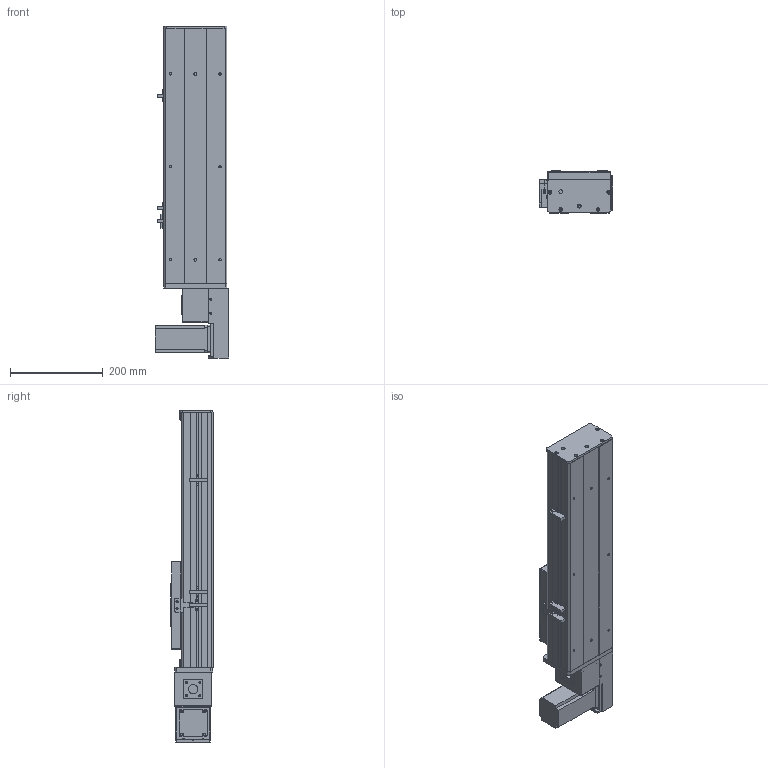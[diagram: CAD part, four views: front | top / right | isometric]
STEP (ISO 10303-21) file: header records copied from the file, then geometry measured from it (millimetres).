
FILE_DESCRIPTION (( 'STEP AP203' ), '1' );
FILE_NAME ('Y135CB-D90-S250-BL-P400W.STEP', '2020-02-17T07:55:47', ( '微软用户' ), ( '微软中国' ), 'SwSTEP 2.0', 'SolidWorks 2017', '' );
FILE_SCHEMA (( 'CONFIG_CONTROL_DESIGN' ));
Length unit declared in the file: millimetre
Products named in the file (18): 35CB---喘謫眊楊擘啣; C-詩湍揤踡え-陔; Y10B--々湍喘謫眊--666; 135CB--詩湍-CE; Y10B-耜蚾蟀諉啣----; Y100-135俋离換覜ん--; Y俋欶BR----; Y135C-陔俋离換覜結え-; 0B-埴倛裔啣; 5C--俋欶; 0B-源倛裔啣; C-雄赽釱--; 0B-萇儂楊擘啣; Y135CB-耜裔; Y135CB-D90-S250-BL-P400W; san松下电机400不带刹车----; 135CB---遴掛极.-; 5CB --掛极耜裔啣-
Assembly tree (21 placements, depth 2):
  Y135CB-D90-S250-BL-P400W
    Y135CB-耜裔
    135CB---遴掛极.-
    35CB---喘謫眊楊擘啣
    Y10B--々湍喘謫眊--666
    Y10B-耜蚾蟀諉啣----
    Y俋欶BR----
    0B-埴倛裔啣
    0B-源倛裔啣
    0B-萇儂楊擘啣
    san松下电机400不带刹车----
    5CB --掛极耜裔啣-  x2
    C-詩湍揤踡え-陔  x2
    135CB--詩湍-CE
    Y100-135俋离換覜ん--  x3
    Y135C-陔俋离換覜結え-
    5C--俋欶
    C-雄赽釱--
Bounding box: 157.5 x 91 x 714.5 mm (x, y, z)
Volume: 2439381.3 mm3; surface area: 935879.1 mm2
Topology: 21 solids, 21 shells, 947 faces, 2491 edges, 1650 vertices
Faces by surface type: cylinder 467, plane 464, cone 16
Entity records: 29013 total; most frequent: DIRECTION 4831, CARTESIAN_POINT 4714, ORIENTED_EDGE 4458, EDGE_CURVE 2229, AXIS2_PLACEMENT_3D 1759, VERTEX_POINT 1478, LINE 1313, VECTOR 1313
